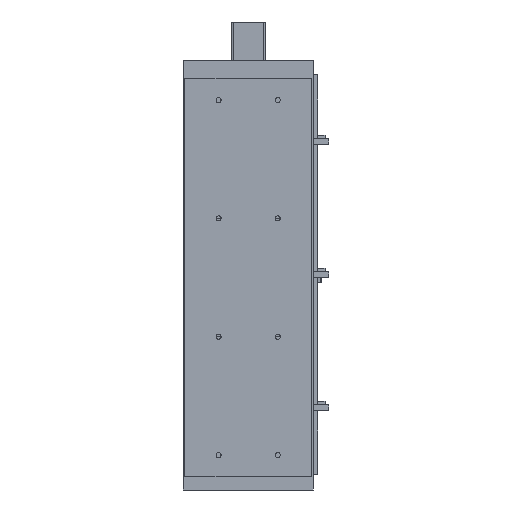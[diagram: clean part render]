
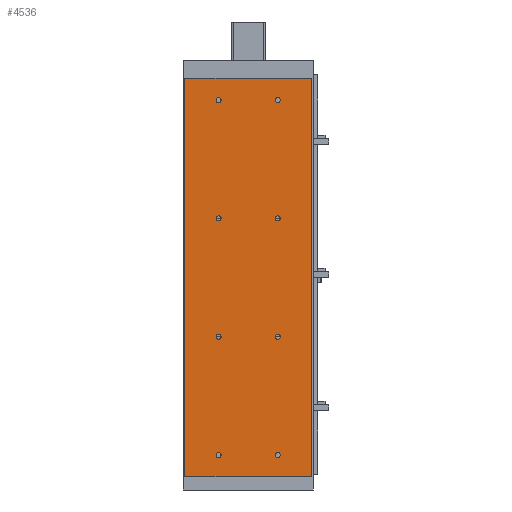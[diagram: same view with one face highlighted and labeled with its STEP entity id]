
A CAD part, front view. The second image highlights one B-rep face of the part: STEP entity #4536.
In plain terms, the highlighted planar face has unit normal (0, -1, 0).
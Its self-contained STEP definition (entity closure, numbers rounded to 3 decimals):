
#3162=CARTESIAN_POINT('',(-107.,0.0,674.0));
#3163=VERTEX_POINT('',#3162);
#3170=CARTESIAN_POINT('',(107.,0.0,674.0));
#3171=VERTEX_POINT('',#3170);
#3172=CARTESIAN_POINT('',(107.,0.0,674.0));
#3173=DIRECTION('',(-1.0,0.0,0.0));
#3174=VECTOR('',#3173,214.);
#3175=LINE('',#3172,#3174);
#3176=EDGE_CURVE('',#3171,#3163,#3175,.T.);
#3506=CARTESIAN_POINT('',(107.,0.0,0.0));
#3507=VERTEX_POINT('',#3506);
#3514=CARTESIAN_POINT('',(-107.,0.0,0.0));
#3515=VERTEX_POINT('',#3514);
#3516=CARTESIAN_POINT('',(-107.,0.0,0.0));
#3517=DIRECTION('',(1.0,0.0,0.0));
#3518=VECTOR('',#3517,214.);
#3519=LINE('',#3516,#3518);
#3520=EDGE_CURVE('',#3515,#3507,#3519,.T.);
#3557=CARTESIAN_POINT('',(-54.249,0.0,637.0));
#3558=VERTEX_POINT('',#3557);
#3559=CARTESIAN_POINT('',(-49.999,0.0,637.0));
#3560=DIRECTION('',(0.0,1.0,0.0));
#3561=DIRECTION('',(1.0,0.0,0.0));
#3562=AXIS2_PLACEMENT_3D('',#3559,#3560,#3561);
#3563=CIRCLE('',#3562,4.25);
#3564=EDGE_CURVE('',#3558,#3558,#3563,.T.);
#3736=CARTESIAN_POINT('',(45.751,0.0,637.0));
#3737=VERTEX_POINT('',#3736);
#3738=CARTESIAN_POINT('',(50.001,0.0,637.0));
#3739=DIRECTION('',(0.0,1.0,0.0));
#3740=DIRECTION('',(1.0,0.0,0.0));
#3741=AXIS2_PLACEMENT_3D('',#3738,#3739,#3740);
#3742=CIRCLE('',#3741,4.25);
#3743=EDGE_CURVE('',#3737,#3737,#3742,.T.);
#3777=CARTESIAN_POINT('',(-54.249,0.0,237.));
#3778=VERTEX_POINT('',#3777);
#3779=CARTESIAN_POINT('',(-49.999,0.0,237.));
#3780=DIRECTION('',(0.0,1.0,0.0));
#3781=DIRECTION('',(1.0,0.0,0.0));
#3782=AXIS2_PLACEMENT_3D('',#3779,#3780,#3781);
#3783=CIRCLE('',#3782,4.25);
#3784=EDGE_CURVE('',#3778,#3778,#3783,.T.);
#3956=CARTESIAN_POINT('',(45.751,0.0,237.));
#3957=VERTEX_POINT('',#3956);
#3958=CARTESIAN_POINT('',(50.001,0.0,237.));
#3959=DIRECTION('',(0.0,1.0,0.0));
#3960=DIRECTION('',(1.0,0.0,0.0));
#3961=AXIS2_PLACEMENT_3D('',#3958,#3959,#3960);
#3962=CIRCLE('',#3961,4.25);
#3963=EDGE_CURVE('',#3957,#3957,#3962,.T.);
#3997=CARTESIAN_POINT('',(-54.249,0.0,37.));
#3998=VERTEX_POINT('',#3997);
#3999=CARTESIAN_POINT('',(-49.999,0.0,37.));
#4000=DIRECTION('',(0.0,1.0,0.0));
#4001=DIRECTION('',(1.0,0.0,0.0));
#4002=AXIS2_PLACEMENT_3D('',#3999,#4000,#4001);
#4003=CIRCLE('',#4002,4.25);
#4004=EDGE_CURVE('',#3998,#3998,#4003,.T.);
#4176=CARTESIAN_POINT('',(45.751,0.0,37.));
#4177=VERTEX_POINT('',#4176);
#4178=CARTESIAN_POINT('',(50.001,0.0,37.));
#4179=DIRECTION('',(0.0,1.0,0.0));
#4180=DIRECTION('',(1.0,0.0,0.0));
#4181=AXIS2_PLACEMENT_3D('',#4178,#4179,#4180);
#4182=CIRCLE('',#4181,4.25);
#4183=EDGE_CURVE('',#4177,#4177,#4182,.T.);
#4286=CARTESIAN_POINT('',(45.751,0.0,437.0));
#4287=VERTEX_POINT('',#4286);
#4288=CARTESIAN_POINT('',(50.001,0.0,437.0));
#4289=DIRECTION('',(0.0,1.0,0.0));
#4290=DIRECTION('',(1.0,0.0,0.0));
#4291=AXIS2_PLACEMENT_3D('',#4288,#4289,#4290);
#4292=CIRCLE('',#4291,4.25);
#4293=EDGE_CURVE('',#4287,#4287,#4292,.T.);
#4396=CARTESIAN_POINT('',(-54.249,0.0,437.0));
#4397=VERTEX_POINT('',#4396);
#4398=CARTESIAN_POINT('',(-49.999,0.0,437.0));
#4399=DIRECTION('',(0.0,1.0,0.0));
#4400=DIRECTION('',(1.0,0.0,0.0));
#4401=AXIS2_PLACEMENT_3D('',#4398,#4399,#4400);
#4402=CIRCLE('',#4401,4.25);
#4403=EDGE_CURVE('',#4397,#4397,#4402,.T.);
#4423=CARTESIAN_POINT('',(107.,0.0,0.0));
#4424=DIRECTION('',(0.0,0.0,1.0));
#4425=VECTOR('',#4424,674.0);
#4426=LINE('',#4423,#4425);
#4427=EDGE_CURVE('',#3507,#3171,#4426,.T.);
#4445=CARTESIAN_POINT('',(-107.,0.0,0.0));
#4446=DIRECTION('',(0.0,0.0,1.0));
#4447=VECTOR('',#4446,674.0);
#4448=LINE('',#4445,#4447);
#4449=EDGE_CURVE('',#3515,#3163,#4448,.T.);
#4501=CARTESIAN_POINT('',(107.,0.0,0.0));
#4502=DIRECTION('',(0.0,-1.0,0.0));
#4503=DIRECTION('',(0.0,0.0,-1.0));
#4504=AXIS2_PLACEMENT_3D('',#4501,#4502,#4503);
#4505=PLANE('',#4504);
#4506=ORIENTED_EDGE('',*,*,#3176,.T.);
#4507=ORIENTED_EDGE('',*,*,#4449,.F.);
#4508=ORIENTED_EDGE('',*,*,#3520,.T.);
#4509=ORIENTED_EDGE('',*,*,#4427,.T.);
#4510=EDGE_LOOP('',(#4506,#4507,#4508,#4509));
#4511=FACE_OUTER_BOUND('',#4510,.T.);
#4512=ORIENTED_EDGE('',*,*,#3564,.T.);
#4513=EDGE_LOOP('',(#4512));
#4514=FACE_BOUND('',#4513,.T.);
#4515=ORIENTED_EDGE('',*,*,#3743,.T.);
#4516=EDGE_LOOP('',(#4515));
#4517=FACE_BOUND('',#4516,.T.);
#4518=ORIENTED_EDGE('',*,*,#3784,.T.);
#4519=EDGE_LOOP('',(#4518));
#4520=FACE_BOUND('',#4519,.T.);
#4521=ORIENTED_EDGE('',*,*,#3963,.T.);
#4522=EDGE_LOOP('',(#4521));
#4523=FACE_BOUND('',#4522,.T.);
#4524=ORIENTED_EDGE('',*,*,#4004,.T.);
#4525=EDGE_LOOP('',(#4524));
#4526=FACE_BOUND('',#4525,.T.);
#4527=ORIENTED_EDGE('',*,*,#4183,.T.);
#4528=EDGE_LOOP('',(#4527));
#4529=FACE_BOUND('',#4528,.T.);
#4530=ORIENTED_EDGE('',*,*,#4293,.T.);
#4531=EDGE_LOOP('',(#4530));
#4532=FACE_BOUND('',#4531,.T.);
#4533=ORIENTED_EDGE('',*,*,#4403,.T.);
#4534=EDGE_LOOP('',(#4533));
#4535=FACE_BOUND('',#4534,.T.);
#4536=ADVANCED_FACE('',(#4511,#4514,#4517,#4520,#4523,#4526,#4529,#4532,#4535),#4505,.T.);
